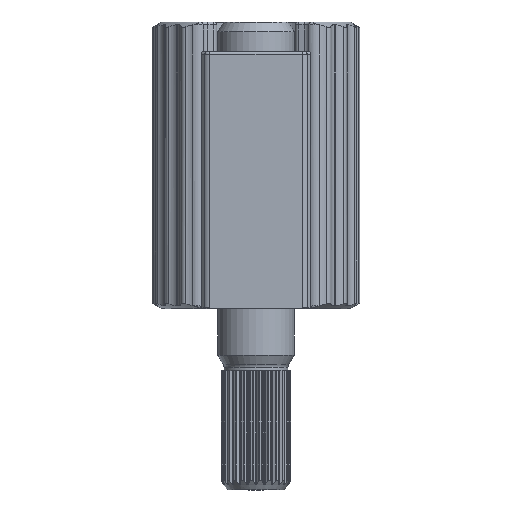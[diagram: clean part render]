
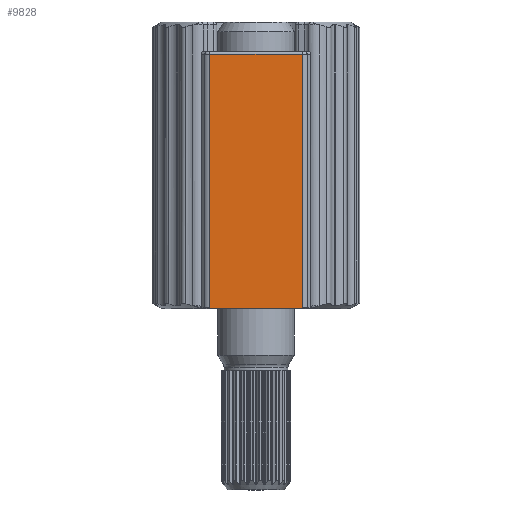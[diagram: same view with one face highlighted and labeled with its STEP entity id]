
A CAD part, front view. The second image highlights one B-rep face of the part: STEP entity #9828.
In plain terms, the highlighted planar face has unit normal (0, -1, 0).
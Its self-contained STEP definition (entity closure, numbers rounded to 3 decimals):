
#228 = LINE ( 'NONE', #6378, #10062 ) ;
#372 = DIRECTION ( 'NONE',  ( 0., 0., -1. ) ) ;
#539 = VERTEX_POINT ( 'NONE', #14385 ) ;
#604 = CARTESIAN_POINT ( 'NONE',  ( 4.865, -8.75, 23.071 ) ) ;
#855 = DIRECTION ( 'NONE',  ( -1., 0., 0. ) ) ;
#1452 = EDGE_CURVE ( 'NONE', #7148, #8855, #228, .T. ) ;
#1761 = AXIS2_PLACEMENT_3D ( 'NONE', #10771, #15600, #4602 ) ;
#2522 = CARTESIAN_POINT ( 'NONE',  ( 4.865, -8.75, -29.921 ) ) ;
#2740 = LINE ( 'NONE', #9382, #14918 ) ;
#2763 = CARTESIAN_POINT ( 'NONE',  ( -4.577, -8.75, -30. ) ) ;
#3076 = ORIENTED_EDGE ( 'NONE', *, *, #13772, .T. ) ;
#3077 = CARTESIAN_POINT ( 'NONE',  ( 4.865, -8.75, -3.4 ) ) ;
#3418 = CARTESIAN_POINT ( 'NONE',  ( -4.577, -8.75, -30. ) ) ;
#3489 = ORIENTED_EDGE ( 'NONE', *, *, #7913, .T. ) ;
#4372 = CARTESIAN_POINT ( 'NONE',  ( -4.769, -8.75, -29.948 ) ) ;
#4602 = DIRECTION ( 'NONE',  ( -1., 0., 0. ) ) ;
#4618 = DIRECTION ( 'NONE',  ( 1., 0., 0. ) ) ;
#4950 = EDGE_LOOP ( 'NONE', ( #12719, #9979, #8121, #13817, #3489, #3076 ) ) ;
#5668 = CARTESIAN_POINT ( 'NONE',  ( 4.577, -8.75, -30. ) ) ;
#6316 = FACE_OUTER_BOUND ( 'NONE', #4950, .T. ) ;
#6378 = CARTESIAN_POINT ( 'NONE',  ( -4.865, -8.75, 23.071 ) ) ;
#6737 = B_SPLINE_CURVE_WITH_KNOTS ( 'NONE', 3,
 ( #6748, #4372, #10534, #3418 ),
 .UNSPECIFIED., .F., .F.,
 ( 4, 4 ),
 ( 0.006, 0.007 ),
 .UNSPECIFIED. ) ;
#6748 = CARTESIAN_POINT ( 'NONE',  ( -4.865, -8.75, -29.921 ) ) ;
#6858 = VERTEX_POINT ( 'NONE', #2763 ) ;
#6922 = EDGE_CURVE ( 'NONE', #10809, #9041, #7542, .T. ) ;
#7148 = VERTEX_POINT ( 'NONE', #7238 ) ;
#7238 = CARTESIAN_POINT ( 'NONE',  ( -4.865, -8.75, -3.4 ) ) ;
#7542 = LINE ( 'NONE', #604, #13619 ) ;
#7913 = EDGE_CURVE ( 'NONE', #6858, #539, #13785, .T. ) ;
#8121 = ORIENTED_EDGE ( 'NONE', *, *, #1452, .T. ) ;
#8371 = EDGE_CURVE ( 'NONE', #10809, #7148, #2740, .T. ) ;
#8855 = VERTEX_POINT ( 'NONE', #13138 ) ;
#9026 = DIRECTION ( 'NONE',  ( 0., 0., -1. ) ) ;
#9041 = VERTEX_POINT ( 'NONE', #2522 ) ;
#9382 = CARTESIAN_POINT ( 'NONE',  ( -4.865, -8.75, -3.4 ) ) ;
#9597 = PLANE ( 'NONE',  #1761 ) ;
#9828 = ADVANCED_FACE ( 'NONE', ( #6316 ), #9597, .F. ) ;
#9979 = ORIENTED_EDGE ( 'NONE', *, *, #8371, .T. ) ;
#10062 = VECTOR ( 'NONE', #372, 1000. ) ;
#10534 = CARTESIAN_POINT ( 'NONE',  ( -4.674, -8.75, -29.974 ) ) ;
#10771 = CARTESIAN_POINT ( 'NONE',  ( -4.865, -8.75, 23.071 ) ) ;
#10809 = VERTEX_POINT ( 'NONE', #3077 ) ;
#11116 = VECTOR ( 'NONE', #4618, 1000. ) ;
#11862 = CARTESIAN_POINT ( 'NONE',  ( -4.865, -8.75, -30. ) ) ;
#12719 = ORIENTED_EDGE ( 'NONE', *, *, #6922, .F. ) ;
#13005 = CARTESIAN_POINT ( 'NONE',  ( 4.674, -8.75, -29.974 ) ) ;
#13138 = CARTESIAN_POINT ( 'NONE',  ( -4.865, -8.75, -29.921 ) ) ;
#13170 = CARTESIAN_POINT ( 'NONE',  ( 4.769, -8.75, -29.948 ) ) ;
#13304 = EDGE_CURVE ( 'NONE', #8855, #6858, #6737, .T. ) ;
#13619 = VECTOR ( 'NONE', #9026, 1000. ) ;
#13772 = EDGE_CURVE ( 'NONE', #539, #9041, #15099, .T. ) ;
#13785 = LINE ( 'NONE', #11862, #11116 ) ;
#13817 = ORIENTED_EDGE ( 'NONE', *, *, #13304, .T. ) ;
#14234 = CARTESIAN_POINT ( 'NONE',  ( 4.865, -8.75, -29.921 ) ) ;
#14385 = CARTESIAN_POINT ( 'NONE',  ( 4.577, -8.75, -30. ) ) ;
#14918 = VECTOR ( 'NONE', #855, 1000. ) ;
#15099 = B_SPLINE_CURVE_WITH_KNOTS ( 'NONE', 3,
 ( #5668, #13005, #13170, #14234 ),
 .UNSPECIFIED., .F., .F.,
 ( 4, 4 ),
 ( 0.016, 0.016 ),
 .UNSPECIFIED. ) ;
#15600 = DIRECTION ( 'NONE',  ( 0., 1., 0. ) ) ;
